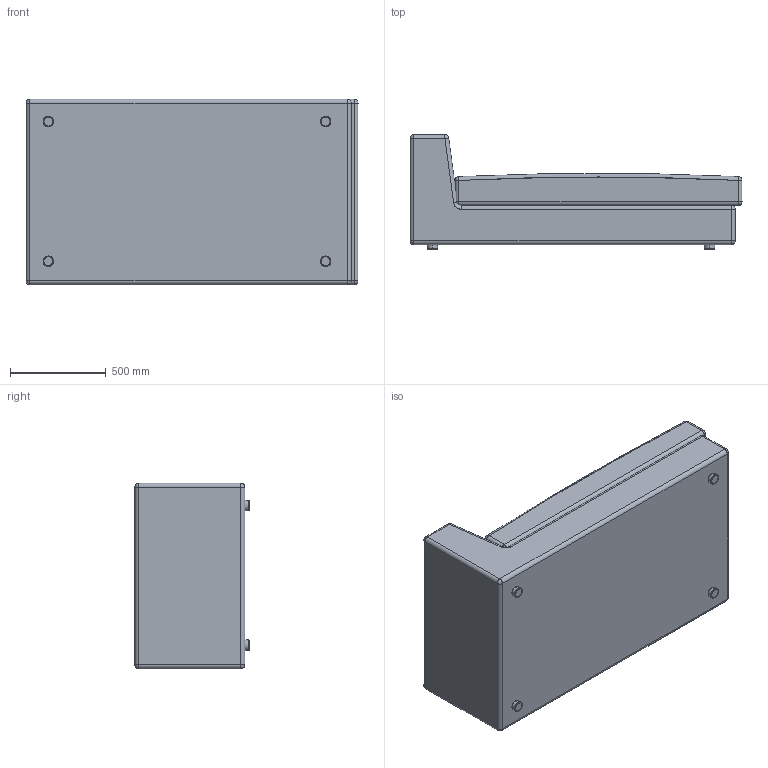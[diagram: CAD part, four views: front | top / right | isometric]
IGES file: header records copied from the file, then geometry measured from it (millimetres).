
Start section: SolidWorks IGES file using NURBS representation for surfaces
Global section: file name: G:\VICCARBE\PRODUCTOS\18-BERRY\04-MODELADOS (PLANOS)\SOLIDWORKS\ELEMENTOS\VICCARBE_Berry_B6.IGS; native system: SolidWorks 2009; preprocessor: SolidWorks 2009; author: RUBEN; date: 110902.094246; units: millimetre
Bounding box: 1735.64 x 598 x 970 mm (x, y, z)
Surface area: 8743046.7 mm2 (no closed solid volume)
Topology: 0 solids, 0 shells, 88 faces, 858 edges, 840 vertices
Faces by surface type: bspline 88
